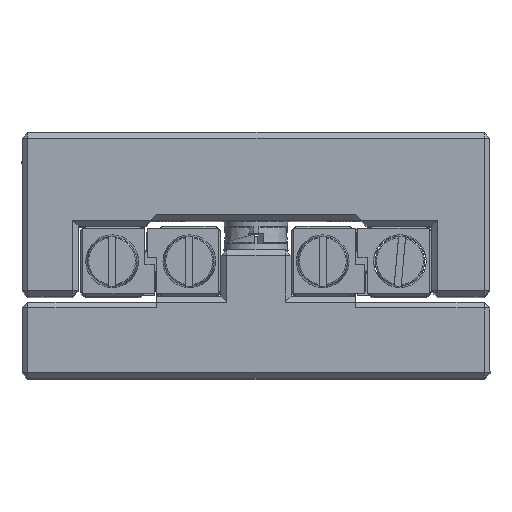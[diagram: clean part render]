
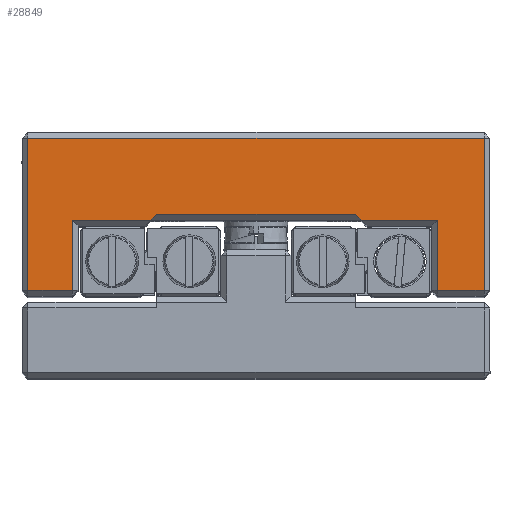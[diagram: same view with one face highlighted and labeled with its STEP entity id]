
A CAD part, top view. The second image highlights one B-rep face of the part: STEP entity #28849.
In plain terms, the highlighted planar face has unit normal (0, 0, 1).
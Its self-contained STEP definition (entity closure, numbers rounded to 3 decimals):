
#1906=PLANE('',#31122);
#3388=FACE_OUTER_BOUND('',#5108,.T.);
#5108=EDGE_LOOP('',(#24702,#24703,#24704,#24705,#24706,#24707,#24708,#24709,
#24710,#24711,#24712,#24713));
#7641=LINE('',#47517,#10278);
#7657=LINE('',#47543,#10294);
#7668=LINE('',#47560,#10305);
#7671=LINE('',#47565,#10308);
#7675=LINE('',#47574,#10312);
#7678=LINE('',#47583,#10315);
#7679=LINE('',#47589,#10316);
#7683=LINE('',#47599,#10320);
#7693=LINE('',#47623,#10330);
#7695=LINE('',#47627,#10332);
#7696=LINE('',#47628,#10333);
#7697=LINE('',#47629,#10334);
#10278=VECTOR('',#37316,10.);
#10294=VECTOR('',#37342,10.);
#10305=VECTOR('',#37361,10.);
#10308=VECTOR('',#37366,10.);
#10312=VECTOR('',#37378,10.);
#10315=VECTOR('',#37391,10.);
#10316=VECTOR('',#37400,10.);
#10320=VECTOR('',#37410,10.);
#10330=VECTOR('',#37430,10.);
#10332=VECTOR('',#37434,10.);
#10333=VECTOR('',#37435,10.);
#10334=VECTOR('',#37436,10.);
#13707=VERTEX_POINT('',#47514);
#13708=VERTEX_POINT('',#47516);
#13713=VERTEX_POINT('',#47541);
#13715=VERTEX_POINT('',#47558);
#13716=VERTEX_POINT('',#47563);
#13717=VERTEX_POINT('',#47572);
#13718=VERTEX_POINT('',#47581);
#13719=VERTEX_POINT('',#47588);
#13721=VERTEX_POINT('',#47596);
#13722=VERTEX_POINT('',#47598);
#13731=VERTEX_POINT('',#47621);
#13732=VERTEX_POINT('',#47626);
#17459=EDGE_CURVE('',#13707,#13708,#7641,.T.);
#17475=EDGE_CURVE('',#13713,#13707,#7657,.T.);
#17486=EDGE_CURVE('',#13715,#13713,#7668,.T.);
#17489=EDGE_CURVE('',#13716,#13715,#7671,.T.);
#17493=EDGE_CURVE('',#13717,#13716,#7675,.T.);
#17496=EDGE_CURVE('',#13718,#13717,#7678,.T.);
#17497=EDGE_CURVE('',#13719,#13718,#7679,.T.);
#17501=EDGE_CURVE('',#13721,#13722,#7683,.T.);
#17513=EDGE_CURVE('',#13731,#13719,#7693,.T.);
#17515=EDGE_CURVE('',#13708,#13732,#7695,.T.);
#17516=EDGE_CURVE('',#13722,#13731,#7696,.T.);
#17517=EDGE_CURVE('',#13732,#13721,#7697,.T.);
#24702=ORIENTED_EDGE('',*,*,#17515,.F.);
#24703=ORIENTED_EDGE('',*,*,#17459,.F.);
#24704=ORIENTED_EDGE('',*,*,#17475,.F.);
#24705=ORIENTED_EDGE('',*,*,#17486,.F.);
#24706=ORIENTED_EDGE('',*,*,#17489,.F.);
#24707=ORIENTED_EDGE('',*,*,#17493,.F.);
#24708=ORIENTED_EDGE('',*,*,#17496,.F.);
#24709=ORIENTED_EDGE('',*,*,#17497,.F.);
#24710=ORIENTED_EDGE('',*,*,#17513,.F.);
#24711=ORIENTED_EDGE('',*,*,#17516,.F.);
#24712=ORIENTED_EDGE('',*,*,#17501,.F.);
#24713=ORIENTED_EDGE('',*,*,#17517,.F.);
#28849=ADVANCED_FACE('',(#3388),#1906,.F.);
#31122=AXIS2_PLACEMENT_3D('',#47625,#37432,#37433);
#37316=DIRECTION('',(0.,1.,0.));
#37342=DIRECTION('',(-1.,0.,0.));
#37361=DIRECTION('',(0.,-1.,0.));
#37366=DIRECTION('',(1.,0.,0.));
#37378=DIRECTION('',(0.,1.,0.));
#37391=DIRECTION('',(-1.,0.,0.));
#37400=DIRECTION('',(0.,-1.,0.));
#37410=DIRECTION('',(-1.,0.,0.));
#37430=DIRECTION('',(-1.,0.,0.));
#37432=DIRECTION('center_axis',(0.,0.,
-1.));
#37433=DIRECTION('ref_axis',(-1.,0.,0.));
#37434=DIRECTION('',(-1.,0.,0.));
#37435=DIRECTION('',(-0.707,-0.707,0.));
#37436=DIRECTION('',(-0.707,0.707,0.));
#47514=CARTESIAN_POINT('',(-18.197,7.5,35.));
#47516=CARTESIAN_POINT('',(-18.197,13.5,35.));
#47517=CARTESIAN_POINT('',(-18.197,10.5,35.));
#47541=CARTESIAN_POINT('',(-14.197,7.5,35.));
#47543=CARTESIAN_POINT('',(-23.697,7.5,35.));
#47558=CARTESIAN_POINT('',(-14.197,20.5,35.));
#47560=CARTESIAN_POINT('',(-14.197,17.5,35.));
#47563=CARTESIAN_POINT('',(-53.197,20.5,35.));
#47565=CARTESIAN_POINT('',(-43.697,20.5,35.));
#47572=CARTESIAN_POINT('',(-53.197,7.5,35.));
#47574=CARTESIAN_POINT('',(-53.197,10.5,35.));
#47581=CARTESIAN_POINT('',(-49.397,7.5,35.));
#47583=CARTESIAN_POINT('',(-41.297,7.5,35.));
#47588=CARTESIAN_POINT('',(-49.397,13.5,35.));
#47589=CARTESIAN_POINT('',(-49.397,13.5,35.));
#47596=CARTESIAN_POINT('',(-25.197,14.,35.));
#47598=CARTESIAN_POINT('',(-42.197,14.,35.));
#47599=CARTESIAN_POINT('',(-29.197,14.,35.));
#47621=CARTESIAN_POINT('',(-42.697,13.5,35.));
#47623=CARTESIAN_POINT('',(-38.447,13.5,35.));
#47625=CARTESIAN_POINT('Origin',(-33.697,14.,35.));
#47626=CARTESIAN_POINT('',(-24.697,13.5,35.));
#47627=CARTESIAN_POINT('',(-26.197,13.5,35.));
#47628=CARTESIAN_POINT('',(-42.697,13.5,35.));
#47629=CARTESIAN_POINT('',(-24.197,13.,35.));
